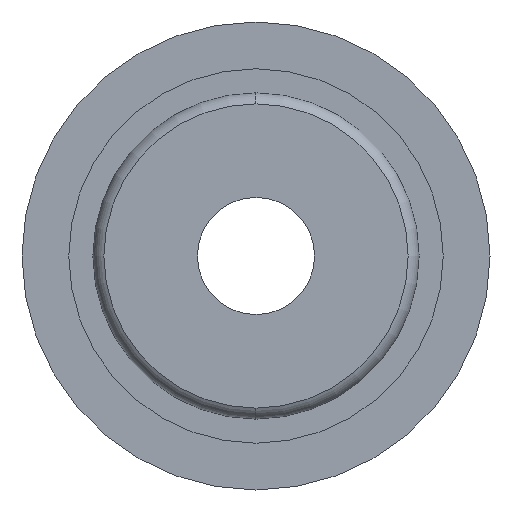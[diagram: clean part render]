
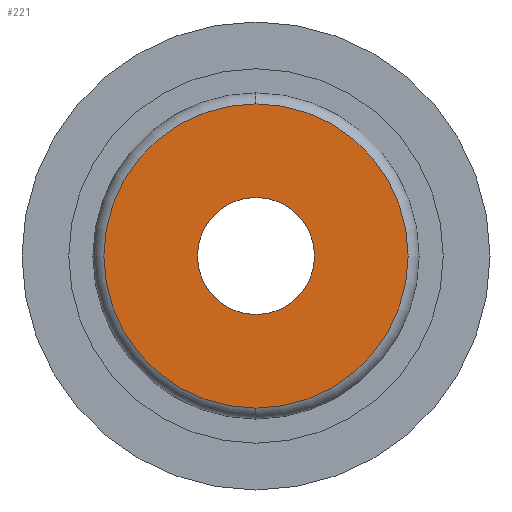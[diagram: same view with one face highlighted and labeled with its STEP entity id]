
A CAD part, left-side view. The second image highlights one B-rep face of the part: STEP entity #221.
In plain terms, the highlighted planar face has unit normal (-1, 0, 0).
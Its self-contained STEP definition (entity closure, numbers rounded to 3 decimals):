
#10 = CARTESIAN_POINT ( 'NONE',  ( 11.815, 0., 0. ) ) ;
#62 = CIRCLE ( 'NONE', #262, 2.5 ) ;
#65 = AXIS2_PLACEMENT_3D ( 'NONE', #96, #687, #187 ) ;
#88 = CARTESIAN_POINT ( 'NONE',  ( 11.815, 0., -6.5 ) ) ;
#96 = CARTESIAN_POINT ( 'NONE',  ( 11.815, 0., 0. ) ) ;
#100 = DIRECTION ( 'NONE',  ( 0., 0., 1. ) ) ;
#112 = FACE_OUTER_BOUND ( 'NONE', #521, .T. ) ;
#139 = AXIS2_PLACEMENT_3D ( 'NONE', #841, #574, #171 ) ;
#164 = EDGE_LOOP ( 'NONE', ( #1060, #549 ) ) ;
#171 = DIRECTION ( 'NONE',  ( 0., 0., -1. ) ) ;
#187 = DIRECTION ( 'NONE',  ( 0., 0., 1. ) ) ;
#221 = ADVANCED_FACE ( 'NONE', ( #304, #112 ), #494, .F. ) ;
#262 = AXIS2_PLACEMENT_3D ( 'NONE', #856, #360, #931 ) ;
#303 = EDGE_CURVE ( 'NONE', #1040, #422, #749, .T. ) ;
#304 = FACE_BOUND ( 'NONE', #164, .T. ) ;
#316 = CIRCLE ( 'NONE', #65, 6.5 ) ;
#360 = DIRECTION ( 'NONE',  ( -1., 0., 0. ) ) ;
#377 = CARTESIAN_POINT ( 'NONE',  ( 11.815, 0., 0. ) ) ;
#410 = AXIS2_PLACEMENT_3D ( 'NONE', #377, #945, #452 ) ;
#420 = AXIS2_PLACEMENT_3D ( 'NONE', #10, #689, #100 ) ;
#422 = VERTEX_POINT ( 'NONE', #651 ) ;
#452 = DIRECTION ( 'NONE',  ( 0., 0., 1. ) ) ;
#494 = PLANE ( 'NONE',  #139 ) ;
#521 = EDGE_LOOP ( 'NONE', ( #564, #698 ) ) ;
#549 = ORIENTED_EDGE ( 'NONE', *, *, #303, .F. ) ;
#564 = ORIENTED_EDGE ( 'NONE', *, *, #944, .T. ) ;
#574 = DIRECTION ( 'NONE',  ( 1., 0., 0. ) ) ;
#651 = CARTESIAN_POINT ( 'NONE',  ( 11.815, 0., 2.5 ) ) ;
#652 = CARTESIAN_POINT ( 'NONE',  ( 11.815, 0., 6.5 ) ) ;
#687 = DIRECTION ( 'NONE',  ( -1., 0., 0. ) ) ;
#689 = DIRECTION ( 'NONE',  ( -1., 0., 0. ) ) ;
#698 = ORIENTED_EDGE ( 'NONE', *, *, #967, .T. ) ;
#717 = VERTEX_POINT ( 'NONE', #652 ) ;
#749 = CIRCLE ( 'NONE', #420, 2.5 ) ;
#801 = CARTESIAN_POINT ( 'NONE',  ( 11.815, 0., -2.5 ) ) ;
#812 = EDGE_CURVE ( 'NONE', #422, #1040, #62, .T. ) ;
#841 = CARTESIAN_POINT ( 'NONE',  ( 11.815, 2.5, 0. ) ) ;
#856 = CARTESIAN_POINT ( 'NONE',  ( 11.815, 0., 0. ) ) ;
#920 = CIRCLE ( 'NONE', #410, 6.5 ) ;
#931 = DIRECTION ( 'NONE',  ( 0., 0., 1. ) ) ;
#937 = VERTEX_POINT ( 'NONE', #88 ) ;
#944 = EDGE_CURVE ( 'NONE', #717, #937, #316, .T. ) ;
#945 = DIRECTION ( 'NONE',  ( -1., 0., 0. ) ) ;
#967 = EDGE_CURVE ( 'NONE', #937, #717, #920, .T. ) ;
#1040 = VERTEX_POINT ( 'NONE', #801 ) ;
#1060 = ORIENTED_EDGE ( 'NONE', *, *, #812, .F. ) ;
